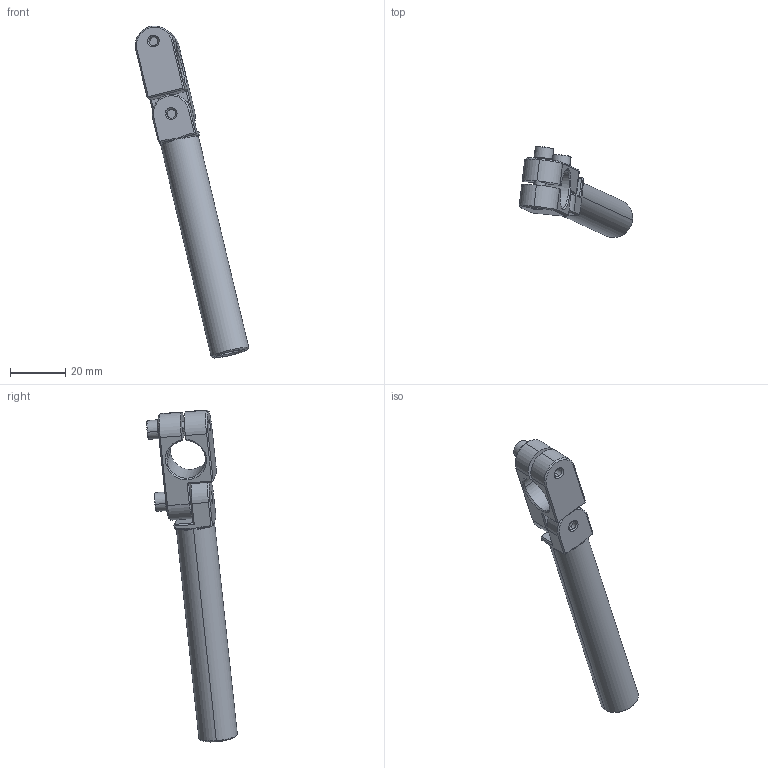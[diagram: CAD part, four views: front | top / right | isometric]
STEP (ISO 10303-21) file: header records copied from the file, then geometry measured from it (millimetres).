
FILE_DESCRIPTION (( 'STEP AP214' ), '1' );
FILE_NAME ('SEA-1414L80T.STEP', '2023-02-03T02:35:32', ( 'Windows User' ), ( 'P R C' ), 'SwSTEP 2.0', 'SolidWorks 2019', '' );
FILE_SCHEMA (( 'AUTOMOTIVE_DESIGN' ));
Length unit declared in the file: millimetre
Products named in the file (5): SEA-1414L80.1; SEA-1414L80T; SEA-1414L120.2; PTC-M4L14; PTS-M4
Assembly tree (6 placements, depth 2):
  SEA-1414L80T
    SEA-1414L120.2
    PTC-M4L14  x2
    PTS-M4  x2
    SEA-1414L80.1
Bounding box: 41.13 x 32.8 x 120.33 mm (x, y, z)
Volume: 14256.9 mm3; surface area: 10569.1 mm2
Topology: 6 solids, 6 shells, 499 faces, 1374 edges, 872 vertices
Faces by surface type: plane 394, cone 39, cylinder 38, bspline 24, torus 4
Entity records: 11374 total; most frequent: CARTESIAN_POINT 3344, ORIENTED_EDGE 1648, DIRECTION 1632, EDGE_CURVE 824, AXIS2_PLACEMENT_3D 568, VERTEX_POINT 518, VECTOR 496, LINE 496
